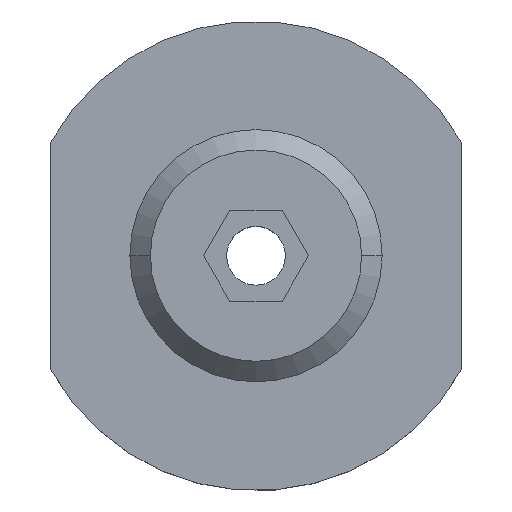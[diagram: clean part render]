
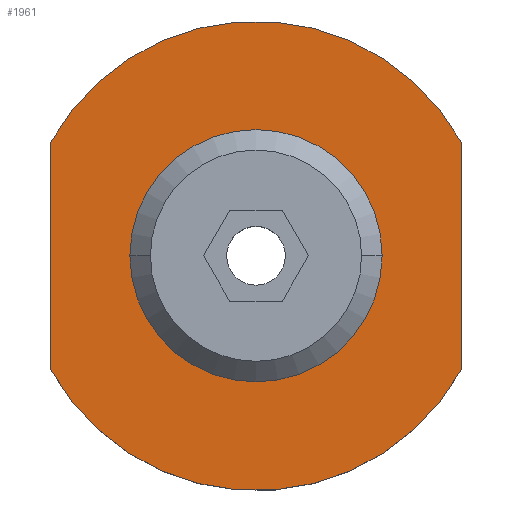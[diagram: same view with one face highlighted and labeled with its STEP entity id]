
A CAD part, top view. The second image highlights one B-rep face of the part: STEP entity #1961.
In plain terms, the highlighted planar face has unit normal (0, 0, 1).
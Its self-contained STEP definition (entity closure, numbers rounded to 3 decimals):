
#17 = CARTESIAN_POINT ( 'NONE',  ( 0., 0., 11. ) ) ;
#50 = PLANE ( 'NONE',  #1526 ) ;
#147 = AXIS2_PLACEMENT_3D ( 'NONE', #1566, #2274, #2095 ) ;
#281 = AXIS2_PLACEMENT_3D ( 'NONE', #17, #1639, #746 ) ;
#284 = VERTEX_POINT ( 'NONE', #481 ) ;
#299 = EDGE_CURVE ( 'NONE', #766, #454, #1848, .T. ) ;
#389 = VERTEX_POINT ( 'NONE', #2138 ) ;
#454 = VERTEX_POINT ( 'NONE', #1462 ) ;
#463 = EDGE_CURVE ( 'NONE', #614, #389, #1698, .T. ) ;
#481 = CARTESIAN_POINT ( 'NONE',  ( -7., 3.873, 11. ) ) ;
#516 = VERTEX_POINT ( 'NONE', #1452 ) ;
#524 = EDGE_CURVE ( 'NONE', #284, #516, #1289, .T. ) ;
#569 = CARTESIAN_POINT ( 'NONE',  ( 7., 0., 11. ) ) ;
#609 = DIRECTION ( 'NONE',  ( 0., 1., 0. ) ) ;
#614 = VERTEX_POINT ( 'NONE', #1185 ) ;
#621 = ORIENTED_EDGE ( 'NONE', *, *, #463, .T. ) ;
#643 = DIRECTION ( 'NONE',  ( 0., 1., 0. ) ) ;
#657 = AXIS2_PLACEMENT_3D ( 'NONE', #734, #1081, #1811 ) ;
#723 = DIRECTION ( 'NONE',  ( 0., 0., -1. ) ) ;
#734 = CARTESIAN_POINT ( 'NONE',  ( 0., 0., 11. ) ) ;
#746 = DIRECTION ( 'NONE',  ( -1., 0., 0. ) ) ;
#756 = DIRECTION ( 'NONE',  ( 0., 0., -1. ) ) ;
#766 = VERTEX_POINT ( 'NONE', #1065 ) ;
#820 = ORIENTED_EDGE ( 'NONE', *, *, #299, .F. ) ;
#821 = LINE ( 'NONE', #2242, #1359 ) ;
#889 = EDGE_CURVE ( 'NONE', #389, #614, #996, .T. ) ;
#996 = CIRCLE ( 'NONE', #1403, 3.25 ) ;
#1065 = CARTESIAN_POINT ( 'NONE',  ( 7., -3.873, 11. ) ) ;
#1081 = DIRECTION ( 'NONE',  ( 0., 0., -1. ) ) ;
#1113 = DIRECTION ( 'NONE',  ( -1., 0., 0. ) ) ;
#1116 = LINE ( 'NONE', #569, #1909 ) ;
#1185 = CARTESIAN_POINT ( 'NONE',  ( 3.25, 0., 11. ) ) ;
#1263 = DIRECTION ( 'NONE',  ( -1., 0., 0. ) ) ;
#1289 = CIRCLE ( 'NONE', #281, 8. ) ;
#1359 = VECTOR ( 'NONE', #643, 1000. ) ;
#1403 = AXIS2_PLACEMENT_3D ( 'NONE', #2154, #756, #1263 ) ;
#1418 = EDGE_CURVE ( 'NONE', #766, #516, #1116, .T. ) ;
#1452 = CARTESIAN_POINT ( 'NONE',  ( 7., 3.873, 11. ) ) ;
#1462 = CARTESIAN_POINT ( 'NONE',  ( -7., -3.873, 11. ) ) ;
#1505 = EDGE_LOOP ( 'NONE', ( #1851, #820, #1642, #2094 ) ) ;
#1506 = EDGE_LOOP ( 'NONE', ( #1724, #621 ) ) ;
#1526 = AXIS2_PLACEMENT_3D ( 'NONE', #1809, #723, #1113 ) ;
#1566 = CARTESIAN_POINT ( 'NONE',  ( 0., 0., 11. ) ) ;
#1615 = FACE_BOUND ( 'NONE', #1506, .T. ) ;
#1639 = DIRECTION ( 'NONE',  ( 0., 0., -1. ) ) ;
#1642 = ORIENTED_EDGE ( 'NONE', *, *, #1418, .T. ) ;
#1698 = CIRCLE ( 'NONE', #657, 3.25 ) ;
#1724 = ORIENTED_EDGE ( 'NONE', *, *, #889, .T. ) ;
#1809 = CARTESIAN_POINT ( 'NONE',  ( 3.25, 0., 11. ) ) ;
#1811 = DIRECTION ( 'NONE',  ( -1., 0., 0. ) ) ;
#1848 = CIRCLE ( 'NONE', #147, 8. ) ;
#1851 = ORIENTED_EDGE ( 'NONE', *, *, #2192, .F. ) ;
#1909 = VECTOR ( 'NONE', #609, 1000. ) ;
#1961 = ADVANCED_FACE ( 'NONE', ( #1615, #2180 ), #50, .F. ) ;
#2094 = ORIENTED_EDGE ( 'NONE', *, *, #524, .F. ) ;
#2095 = DIRECTION ( 'NONE',  ( -1., 0., 0. ) ) ;
#2138 = CARTESIAN_POINT ( 'NONE',  ( -3.25, 0., 11. ) ) ;
#2154 = CARTESIAN_POINT ( 'NONE',  ( 0., 0., 11. ) ) ;
#2180 = FACE_OUTER_BOUND ( 'NONE', #1505, .T. ) ;
#2192 = EDGE_CURVE ( 'NONE', #454, #284, #821, .T. ) ;
#2242 = CARTESIAN_POINT ( 'NONE',  ( -7., 0., 11. ) ) ;
#2274 = DIRECTION ( 'NONE',  ( 0., 0., -1. ) ) ;
